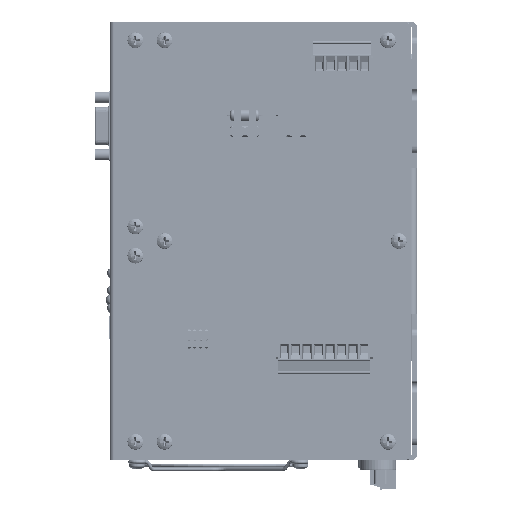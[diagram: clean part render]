
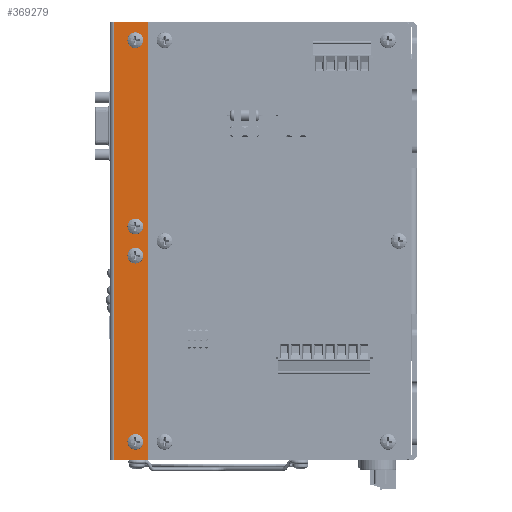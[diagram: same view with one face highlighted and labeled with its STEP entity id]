
A CAD part, left-side view. The second image highlights one B-rep face of the part: STEP entity #369279.
In plain terms, the highlighted planar face has unit normal (-1, 0, 0).
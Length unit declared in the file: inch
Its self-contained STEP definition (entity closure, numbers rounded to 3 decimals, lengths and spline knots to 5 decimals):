
#358104 = VERTEX_POINT ( 'NONE', #475291 ) ;
#358438 = VERTEX_POINT ( 'NONE', #478208 ) ;
#358577 = EDGE_CURVE ( 'NONE', #358438, #358104, #478647, .T. ) ;
#358729 = VERTEX_POINT ( 'NONE', #480494 ) ;
#358790 = VERTEX_POINT ( 'NONE', #480946 ) ;
#359244 = EDGE_CURVE ( 'NONE', #358790, #358729, #483719, .T. ) ;
#360049 = VERTEX_POINT ( 'NONE', #488915 ) ;
#360402 = VERTEX_POINT ( 'NONE', #491483 ) ;
#361116 = EDGE_CURVE ( 'NONE', #360049, #360402, #498096, .T. ) ;
#361433 = EDGE_CURVE ( 'NONE', #361445, #361466, #500206, .T. ) ;
#361445 = VERTEX_POINT ( 'NONE', #500460 ) ;
#361466 = VERTEX_POINT ( 'NONE', #500138 ) ;
#363027 = VERTEX_POINT ( 'NONE', #512245 ) ;
#363461 = VERTEX_POINT ( 'NONE', #515788 ) ;
#363685 = EDGE_CURVE ( 'NONE', #363842, #363027, #517842, .T. ) ;
#363842 = VERTEX_POINT ( 'NONE', #518977 ) ;
#368358 = EDGE_CURVE ( 'NONE', #363461, #363027, #561575, .T. ) ;
#368800 = ORIENTED_EDGE ( 'NONE', *, *, #369697, .F. ) ;
#369085 = ORIENTED_EDGE ( 'NONE', *, *, #358577, .F. ) ;
#369190 = EDGE_LOOP ( 'NONE', ( #369661, #369805 ) ) ;
#369279 = ADVANCED_FACE ( 'NONE', ( #569858, #569831, #569612, #569793, #569796 ), #570134, .T. ) ;
#369299 = ORIENTED_EDGE ( 'NONE', *, *, #369756, .F. ) ;
#369305 = ORIENTED_EDGE ( 'NONE', *, *, #359244, .F. ) ;
#369310 = EDGE_CURVE ( 'NONE', #360402, #360049, #570389, .T. ) ;
#369345 = EDGE_CURVE ( 'NONE', #361466, #361445, #570851, .T. ) ;
#369385 = ORIENTED_EDGE ( 'NONE', *, *, #363685, .F. ) ;
#369458 = ORIENTED_EDGE ( 'NONE', *, *, #361433, .T. ) ;
#369462 = ORIENTED_EDGE ( 'NONE', *, *, #369859, .F. ) ;
#369476 = EDGE_LOOP ( 'NONE', ( #369385, #369462, #369885, #369865 ) ) ;
#369497 = EDGE_LOOP ( 'NONE', ( #368800, #369085 ) ) ;
#369529 = EDGE_LOOP ( 'NONE', ( #369299, #369305 ) ) ;
#369661 = ORIENTED_EDGE ( 'NONE', *, *, #369310, .T. ) ;
#369697 = EDGE_CURVE ( 'NONE', #358104, #358438, #573183, .T. ) ;
#369756 = EDGE_CURVE ( 'NONE', #358729, #358790, #573773, .T. ) ;
#369776 = EDGE_LOOP ( 'NONE', ( #369800, #369458 ) ) ;
#369800 = ORIENTED_EDGE ( 'NONE', *, *, #369345, .T. ) ;
#369805 = ORIENTED_EDGE ( 'NONE', *, *, #361116, .T. ) ;
#369859 = EDGE_CURVE ( 'NONE', #369899, #363842, #571351, .T. ) ;
#369865 = ORIENTED_EDGE ( 'NONE', *, *, #368358, .T. ) ;
#369885 = ORIENTED_EDGE ( 'NONE', *, *, #369965, .T. ) ;
#369899 = VERTEX_POINT ( 'NONE', #574961 ) ;
#369965 = EDGE_CURVE ( 'NONE', #369899, #363461, #576145, .T. ) ;
#475291 = CARTESIAN_POINT ( 'NONE',  ( 0., -0.435, 4.07 ) ) ;
#478208 = CARTESIAN_POINT ( 'NONE',  ( 0., -0.435, 3.93 ) ) ;
#478647 = CIRCLE ( 'NONE', #478821, 0.07 ) ;
#478816 = DIRECTION ( 'NONE',  ( 0., 0., 1. ) ) ;
#478819 = DIRECTION ( 'NONE',  ( -1., 0., 0. ) ) ;
#478821 = AXIS2_PLACEMENT_3D ( 'NONE', #478846, #478819, #478816 ) ;
#478846 = CARTESIAN_POINT ( 'NONE',  ( 0., -0.435, 4. ) ) ;
#480494 = CARTESIAN_POINT ( 'NONE',  ( 0., -0.435, 3.57 ) ) ;
#480946 = CARTESIAN_POINT ( 'NONE',  ( 0., -0.435, 3.43 ) ) ;
#483719 = CIRCLE ( 'NONE', #483769, 0.07 ) ;
#483769 = AXIS2_PLACEMENT_3D ( 'NONE', #484008, #484004, #483906 ) ;
#483906 = DIRECTION ( 'NONE',  ( 0., 0., 1. ) ) ;
#484004 = DIRECTION ( 'NONE',  ( -1., 0., 0. ) ) ;
#484008 = CARTESIAN_POINT ( 'NONE',  ( 0., -0.435, 3.5 ) ) ;
#488915 = CARTESIAN_POINT ( 'NONE',  ( 0., -0.435, 0.4065 ) ) ;
#491483 = CARTESIAN_POINT ( 'NONE',  ( 0., -0.435, 0.2185 ) ) ;
#497947 = AXIS2_PLACEMENT_3D ( 'NONE', #498166, #498075, #498073 ) ;
#498073 = DIRECTION ( 'NONE',  ( 0., 0., -1. ) ) ;
#498075 = DIRECTION ( 'NONE',  ( 1., 0., 0. ) ) ;
#498096 = CIRCLE ( 'NONE', #497947, 0.094 ) ;
#498166 = CARTESIAN_POINT ( 'NONE',  ( 0., -0.435, 0.3125 ) ) ;
#500122 = DIRECTION ( 'NONE',  ( 0., 0., -1. ) ) ;
#500127 = DIRECTION ( 'NONE',  ( 1., 0., 0. ) ) ;
#500130 = AXIS2_PLACEMENT_3D ( 'NONE', #500161, #500127, #500122 ) ;
#500138 = CARTESIAN_POINT ( 'NONE',  ( 0., -0.435, 7.0935 ) ) ;
#500161 = CARTESIAN_POINT ( 'NONE',  ( 0., -0.435, 7.1875 ) ) ;
#500206 = CIRCLE ( 'NONE', #500130, 0.094 ) ;
#500460 = CARTESIAN_POINT ( 'NONE',  ( 0., -0.435, 7.2815 ) ) ;
#512245 = CARTESIAN_POINT ( 'NONE',  ( 0., -0.07, 0. ) ) ;
#515788 = CARTESIAN_POINT ( 'NONE',  ( 0., -0.07, 7.5 ) ) ;
#517731 = CARTESIAN_POINT ( 'NONE',  ( 0., -0.65, 0. ) ) ;
#517842 = LINE ( 'NONE', #517731, #518096 ) ;
#518093 = DIRECTION ( 'NONE',  ( 0., 1., 0. ) ) ;
#518096 = VECTOR ( 'NONE', #518093, 39.37008 ) ;
#518977 = CARTESIAN_POINT ( 'NONE',  ( 0., -0.65, 0. ) ) ;
#561543 = DIRECTION ( 'NONE',  ( 0., 0., -1. ) ) ;
#561545 = VECTOR ( 'NONE', #561543, 39.37008 ) ;
#561548 = CARTESIAN_POINT ( 'NONE',  ( 0., -0.07, 7.5 ) ) ;
#561575 = LINE ( 'NONE', #561548, #561545 ) ;
#569612 = FACE_BOUND ( 'NONE', #369190, .T. ) ;
#569793 = FACE_BOUND ( 'NONE', #369776, .T. ) ;
#569796 = FACE_OUTER_BOUND ( 'NONE', #369476, .T. ) ;
#569831 = FACE_BOUND ( 'NONE', #369529, .T. ) ;
#569858 = FACE_BOUND ( 'NONE', #369497, .T. ) ;
#570069 = DIRECTION ( 'NONE',  ( 0., 0., 1. ) ) ;
#570073 = DIRECTION ( 'NONE',  ( -1., 0., 0. ) ) ;
#570075 = CARTESIAN_POINT ( 'NONE',  ( 0., -0.65, 7.5 ) ) ;
#570079 = AXIS2_PLACEMENT_3D ( 'NONE', #570075, #570073, #570069 ) ;
#570134 = PLANE ( 'NONE',  #570079 ) ;
#570320 = DIRECTION ( 'NONE',  ( 0., 0., -1. ) ) ;
#570384 = CARTESIAN_POINT ( 'NONE',  ( 0., -0.435, 0.3125 ) ) ;
#570389 = CIRCLE ( 'NONE', #570414, 0.094 ) ;
#570414 = AXIS2_PLACEMENT_3D ( 'NONE', #570384, #570502, #570320 ) ;
#570502 = DIRECTION ( 'NONE',  ( 1., 0., 0. ) ) ;
#570822 = DIRECTION ( 'NONE',  ( 0., 0., -1. ) ) ;
#570826 = DIRECTION ( 'NONE',  ( 1., 0., 0. ) ) ;
#570835 = CARTESIAN_POINT ( 'NONE',  ( 0., -0.435, 7.1875 ) ) ;
#570851 = CIRCLE ( 'NONE', #570913, 0.094 ) ;
#570913 = AXIS2_PLACEMENT_3D ( 'NONE', #570835, #570826, #570822 ) ;
#571351 = LINE ( 'NONE', #571407, #571419 ) ;
#571388 = DIRECTION ( 'NONE',  ( 0., 0., -1. ) ) ;
#571407 = CARTESIAN_POINT ( 'NONE',  ( 0., -0.65, 7.5 ) ) ;
#571419 = VECTOR ( 'NONE', #571388, 39.37008 ) ;
#573183 = CIRCLE ( 'NONE', #573392, 0.07 ) ;
#573392 = AXIS2_PLACEMENT_3D ( 'NONE', #573430, #573750, #573748 ) ;
#573430 = CARTESIAN_POINT ( 'NONE',  ( 0., -0.435, 4. ) ) ;
#573748 = DIRECTION ( 'NONE',  ( 0., 0., 1. ) ) ;
#573750 = DIRECTION ( 'NONE',  ( -1., 0., 0. ) ) ;
#573773 = CIRCLE ( 'NONE', #574113, 0.07 ) ;
#574025 = DIRECTION ( 'NONE',  ( 0., 0., 1. ) ) ;
#574027 = DIRECTION ( 'NONE',  ( -1., 0., 0. ) ) ;
#574076 = CARTESIAN_POINT ( 'NONE',  ( 0., -0.435, 3.5 ) ) ;
#574113 = AXIS2_PLACEMENT_3D ( 'NONE', #574076, #574027, #574025 ) ;
#574961 = CARTESIAN_POINT ( 'NONE',  ( 0., -0.65, 7.5 ) ) ;
#576133 = DIRECTION ( 'NONE',  ( 0., 1., 0. ) ) ;
#576137 = VECTOR ( 'NONE', #576133, 39.37008 ) ;
#576141 = CARTESIAN_POINT ( 'NONE',  ( 0., -0.65, 7.5 ) ) ;
#576145 = LINE ( 'NONE', #576141, #576137 ) ;
